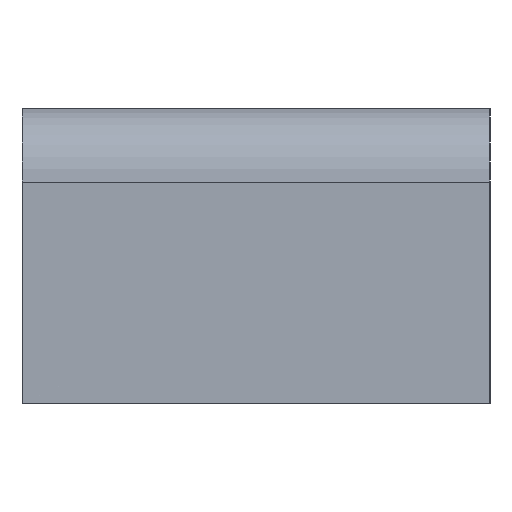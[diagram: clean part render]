
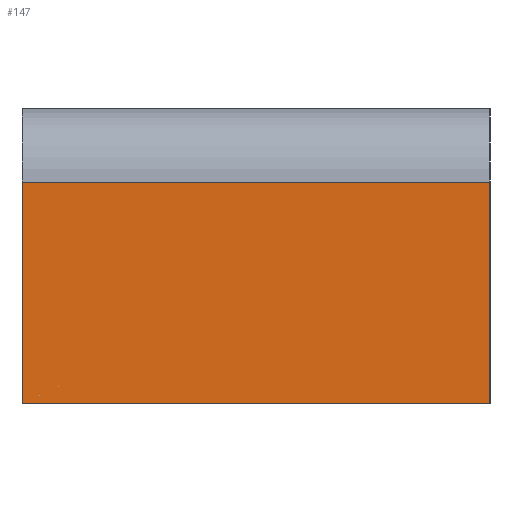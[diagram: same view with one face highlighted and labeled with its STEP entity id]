
A CAD part, left-side view. The second image highlights one B-rep face of the part: STEP entity #147.
In plain terms, the highlighted planar face has unit normal (-1, 0, 0).
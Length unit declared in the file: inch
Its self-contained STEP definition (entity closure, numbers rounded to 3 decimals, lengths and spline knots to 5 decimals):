
#1 = CARTESIAN_POINT ( 'NONE',  ( -1.25236, 0., -0.46344 ) ) ;
#44 = EDGE_CURVE ( 'NONE', #526, #786, #717, .T. ) ;
#62 = EDGE_CURVE ( 'NONE', #786, #197, #195, .T. ) ;
#70 = CARTESIAN_POINT ( 'NONE',  ( -1.25236, 1.1875, -0.46344 ) ) ;
#99 = EDGE_LOOP ( 'NONE', ( #820, #686, #734, #831 ) ) ;
#147 = ADVANCED_FACE ( 'NONE', ( #344 ), #832, .F. ) ;
#155 = LINE ( 'NONE', #773, #554 ) ;
#195 = LINE ( 'NONE', #1, #527 ) ;
#197 = VERTEX_POINT ( 'NONE', #698 ) ;
#214 = CARTESIAN_POINT ( 'NONE',  ( -1.25236, 1.1875, -0.46344 ) ) ;
#236 = DIRECTION ( 'NONE',  ( 1., 0., 0. ) ) ;
#253 = VECTOR ( 'NONE', #782, 39.37008 ) ;
#322 = DIRECTION ( 'NONE',  ( 0., 0., 1. ) ) ;
#344 = FACE_OUTER_BOUND ( 'NONE', #99, .T. ) ;
#375 = VECTOR ( 'NONE', #385, 39.37008 ) ;
#385 = DIRECTION ( 'NONE',  ( 0., 1., 0. ) ) ;
#477 = AXIS2_PLACEMENT_3D ( 'NONE', #515, #236, #834 ) ;
#494 = CARTESIAN_POINT ( 'NONE',  ( -1.25236, 0., -0.46344 ) ) ;
#515 = CARTESIAN_POINT ( 'NONE',  ( -1.25236, 1.1875, -0.46344 ) ) ;
#526 = VERTEX_POINT ( 'NONE', #70 ) ;
#527 = VECTOR ( 'NONE', #594, 39.37008 ) ;
#554 = VECTOR ( 'NONE', #322, 39.37008 ) ;
#585 = CARTESIAN_POINT ( 'NONE',  ( -1.25236, 1.1875, 0.09906 ) ) ;
#592 = EDGE_CURVE ( 'NONE', #526, #705, #155, .T. ) ;
#594 = DIRECTION ( 'NONE',  ( 0., 0., 1. ) ) ;
#626 = LINE ( 'NONE', #585, #375 ) ;
#648 = EDGE_CURVE ( 'NONE', #197, #705, #626, .T. ) ;
#686 = ORIENTED_EDGE ( 'NONE', *, *, #648, .T. ) ;
#698 = CARTESIAN_POINT ( 'NONE',  ( -1.25236, 0., 0.09906 ) ) ;
#705 = VERTEX_POINT ( 'NONE', #759 ) ;
#717 = LINE ( 'NONE', #214, #253 ) ;
#734 = ORIENTED_EDGE ( 'NONE', *, *, #592, .F. ) ;
#759 = CARTESIAN_POINT ( 'NONE',  ( -1.25236, 1.1875, 0.09906 ) ) ;
#773 = CARTESIAN_POINT ( 'NONE',  ( -1.25236, 1.1875, -0.46344 ) ) ;
#782 = DIRECTION ( 'NONE',  ( 0., -1., 0. ) ) ;
#786 = VERTEX_POINT ( 'NONE', #494 ) ;
#820 = ORIENTED_EDGE ( 'NONE', *, *, #62, .T. ) ;
#831 = ORIENTED_EDGE ( 'NONE', *, *, #44, .T. ) ;
#832 = PLANE ( 'NONE',  #477 ) ;
#834 = DIRECTION ( 'NONE',  ( 0., 0., -1. ) ) ;
